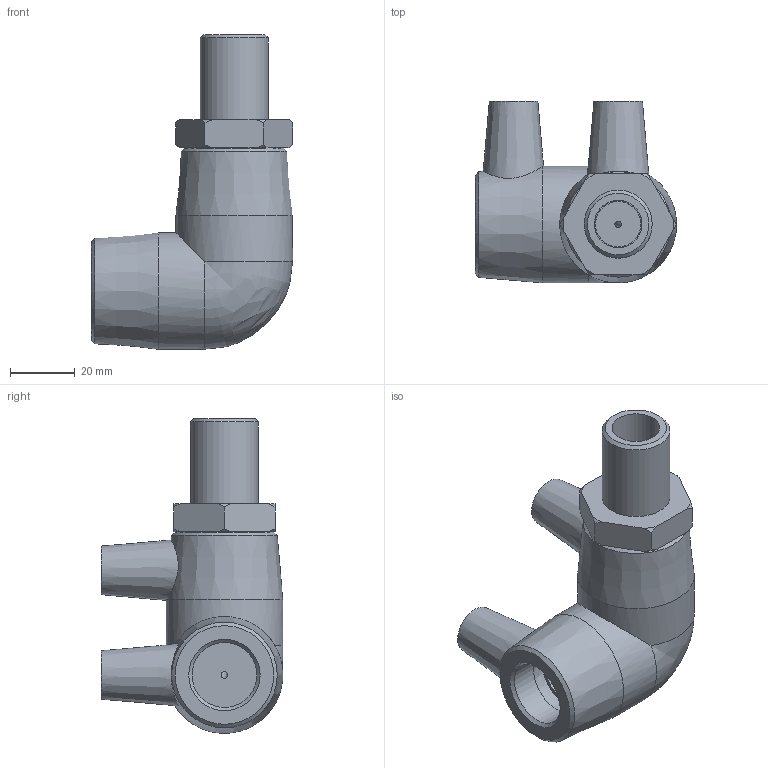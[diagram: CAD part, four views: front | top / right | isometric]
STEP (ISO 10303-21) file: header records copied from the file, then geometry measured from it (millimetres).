
FILE_DESCRIPTION(/* description */ ('PE Male Transition Elbow 90° 20x 1_2'),/* implementation_level */ '2;1');
FILE_NAME(/* name */ 'C:\Dropbox\KIMPROJECTS-Inventor\99-16-3568-Processing\ElectroFusion Fittings\21.04\497504\497504020005.ipt.stp',/* time_stamp */ '2019-04-21T15:12:57+03:00',/* author */ ('KIM'),/* organization */ (''),/* preprocessor_version */ 'ST-DEVELOPER v15.6',/* originating_system */ 'Autodesk Inventor 2015',/* authorisation */ '');
FILE_SCHEMA (('AUTOMOTIVE_DESIGN { 1 0 10303 214 3 1 1 }'));
Length unit declared in the file: millimetre
Products named in the file (1): 497504020005
Bounding box: 62 x 56 x 96.97 mm (x, y, z)
Volume: 88734.1 mm3; surface area: 26438.2 mm2
Topology: 2 solids, 2 shells, 62 faces, 136 edges, 86 vertices
Faces by surface type: cone 24, plane 22, cylinder 14, bspline 1, torus 1
Full cylindrical faces by diameter (mm): 2 x1, 4 x2, 10 x2, 14 x1, 14.668 x1, 20 x4, 20.955 x1, 36 x2
Entity records: 1593 total; most frequent: CARTESIAN_POINT 390, DIRECTION 250, ORIENTED_EDGE 204, AXIS2_PLACEMENT_3D 116, EDGE_CURVE 102, EDGE_LOOP 101, VERTEX_POINT 79, FACE_OUTER_BOUND 62
